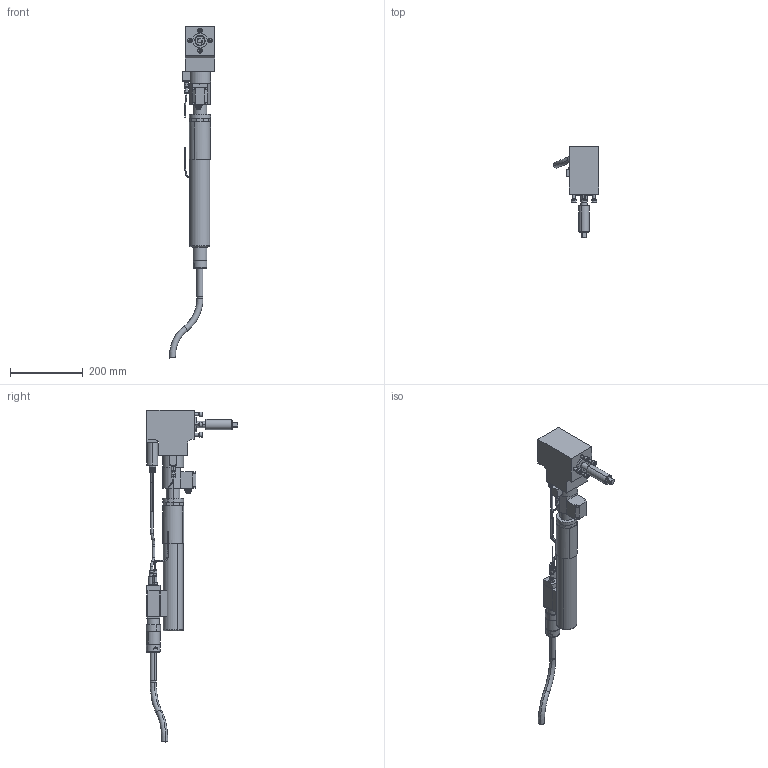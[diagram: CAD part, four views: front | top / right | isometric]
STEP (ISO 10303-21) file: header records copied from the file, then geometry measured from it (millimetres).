
FILE_DESCRIPTION(('CATIA V5 STEP Exchange'),'2;1');
FILE_NAME('C:\pro\7920334_ECR211_DWR120_W2_AWD225-120_AllCATPart.stp','2008-11-10T09:31:31+00:00',('none'),('none'),'CATIA Version 5 Release 17 (IN-10)','CATIA V5 STEP AP203','none');
FILE_SCHEMA(('CONFIG_CONTROL_DESIGN'));
Length unit declared in the file: millimetre
Products named in the file (1): 7920334_ECR211_DWR120_W2_AWD225-120_AllCATPart
Bounding box: 123.82 x 252.98 x 913.16 mm (x, y, z)
Volume: 2884881.3 mm3; surface area: 290560.2 mm2
Topology: 26 solids, 26 shells, 629 faces, 1413 edges, 880 vertices
Faces by surface type: plane 307, cylinder 208, cone 62, torus 48, bspline 4
Entity records: 16631 total; most frequent: CARTESIAN_POINT 3567, ORIENTED_EDGE 2802, DIRECTION 2247, EDGE_CURVE 1401, AXIS2_PLACEMENT_3D 1064, VERTEX_POINT 880, VECTOR 733, LINE 733
